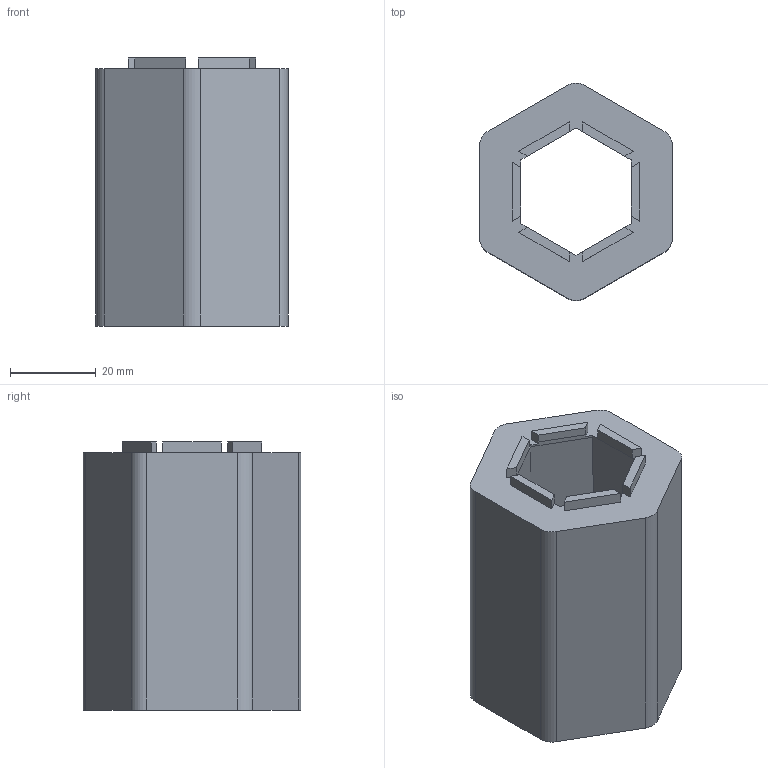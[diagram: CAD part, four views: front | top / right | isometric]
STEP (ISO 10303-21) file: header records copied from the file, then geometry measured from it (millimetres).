
FILE_DESCRIPTION(/* description */ ('','CAx-IF Rec.Pracs.---Representation and Presentation of Product Manufacturing Information (PMI)---4.0---2014-10-13'),/* implementation_level */ '2;1');
FILE_NAME(/* name */ 'Turm-60.step',/* time_stamp */ '2025-01-06T17:45:24+01:00',/* author */ (''),/* organization */ (''),/* preprocessor_version */ 'ST-DEVELOPER v20',/* originating_system */ 'Autodesk Translation Framework v13.20.0.188',/* authorisation */ '');
FILE_SCHEMA (('AP242_MANAGED_MODEL_BASED_3D_ENGINEERING_MIM_LF { 1 0 10303 442 1 1 4 }'));
Length unit declared in the file: millimetre
Products named in the file (1): 01_Turm-60
Bounding box: 45 x 50.72 x 62.5 mm (x, y, z)
Volume: 65032.8 mm3; surface area: 17588.2 mm2
Topology: 1 solids, 1 shells, 57 faces, 149 edges, 94 vertices
Faces by surface type: plane 50, cylinder 6, bspline 1
Entity records: 1813 total; most frequent: CARTESIAN_POINT 382, ORIENTED_EDGE 298, DIRECTION 267, EDGE_CURVE 149, LINE 129, VECTOR 129, VERTEX_POINT 94, AXIS2_PLACEMENT_3D 69
